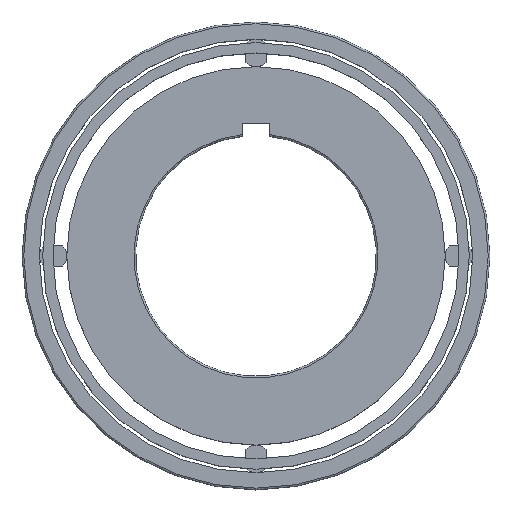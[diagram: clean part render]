
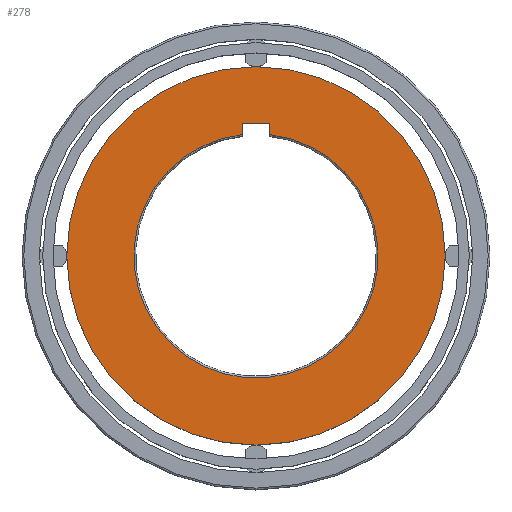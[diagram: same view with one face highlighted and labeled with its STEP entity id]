
A CAD part, top view. The second image highlights one B-rep face of the part: STEP entity #278.
In plain terms, the highlighted planar face has unit normal (0, 0, 1).
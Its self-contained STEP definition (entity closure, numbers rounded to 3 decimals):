
#278=ADVANCED_FACE('',(#532,#533),#341,.T.);
#341=PLANE('',#1199);
#384=LINE('',#1624,#458);
#385=LINE('',#1627,#459);
#386=LINE('',#1631,#460);
#458=VECTOR('',#1317,1.);
#459=VECTOR('',#1318,1.);
#460=VECTOR('',#1321,1.);
#532=FACE_BOUND('',#574,.T.);
#533=FACE_BOUND('',#575,.T.);
#574=EDGE_LOOP('',(#662));
#575=EDGE_LOOP('',(#663,#664,#665,#666));
#662=ORIENTED_EDGE('',*,*,#1014,.T.);
#663=ORIENTED_EDGE('',*,*,#1015,.T.);
#664=ORIENTED_EDGE('',*,*,#1016,.T.);
#665=ORIENTED_EDGE('',*,*,#1017,.T.);
#666=ORIENTED_EDGE('',*,*,#1018,.T.);
#922=VERTEX_POINT('',#1623);
#923=VERTEX_POINT('',#1625);
#924=VERTEX_POINT('',#1626);
#925=VERTEX_POINT('',#1628);
#926=VERTEX_POINT('',#1630);
#1014=EDGE_CURVE('',#922,#922,#1144,.T.);
#1015=EDGE_CURVE('',#923,#924,#384,.T.);
#1016=EDGE_CURVE('',#924,#925,#385,.T.);
#1017=EDGE_CURVE('',#925,#926,#1145,.T.);
#1018=EDGE_CURVE('',#926,#923,#386,.T.);
#1144=CIRCLE('',#1197,27.5);
#1145=CIRCLE('',#1198,17.75);
#1197=AXIS2_PLACEMENT_3D('',#1622,#1315,#1316);
#1198=AXIS2_PLACEMENT_3D('',#1629,#1319,#1320);
#1199=AXIS2_PLACEMENT_3D('',#1632,#1322,#1323);
#1315=DIRECTION('',(0.,0.,1.));
#1316=DIRECTION('',(1.,0.,0.));
#1317=DIRECTION('',(1.,0.,0.));
#1318=DIRECTION('',(0.,-1.,0.));
#1319=DIRECTION('',(0.,0.,-1.));
#1320=DIRECTION('',(1.,0.,0.));
#1321=DIRECTION('',(0.,1.,0.));
#1322=DIRECTION('',(0.,0.,1.));
#1323=DIRECTION('',(1.,0.,0.));
#1622=CARTESIAN_POINT('',(0.,0.,12.));
#1623=CARTESIAN_POINT('',(27.5,0.,12.));
#1624=CARTESIAN_POINT('',(-2.,19.3,12.));
#1625=CARTESIAN_POINT('',(-2.,19.3,12.));
#1626=CARTESIAN_POINT('',(2.,19.3,12.));
#1627=CARTESIAN_POINT('',(2.,19.3,12.));
#1628=CARTESIAN_POINT('',(2.,17.637,12.));
#1629=CARTESIAN_POINT('',(0.,0.,12.));
#1630=CARTESIAN_POINT('',(-2.,17.637,12.));
#1631=CARTESIAN_POINT('',(-2.,15.7,12.));
#1632=CARTESIAN_POINT('',(0.,0.,12.));
